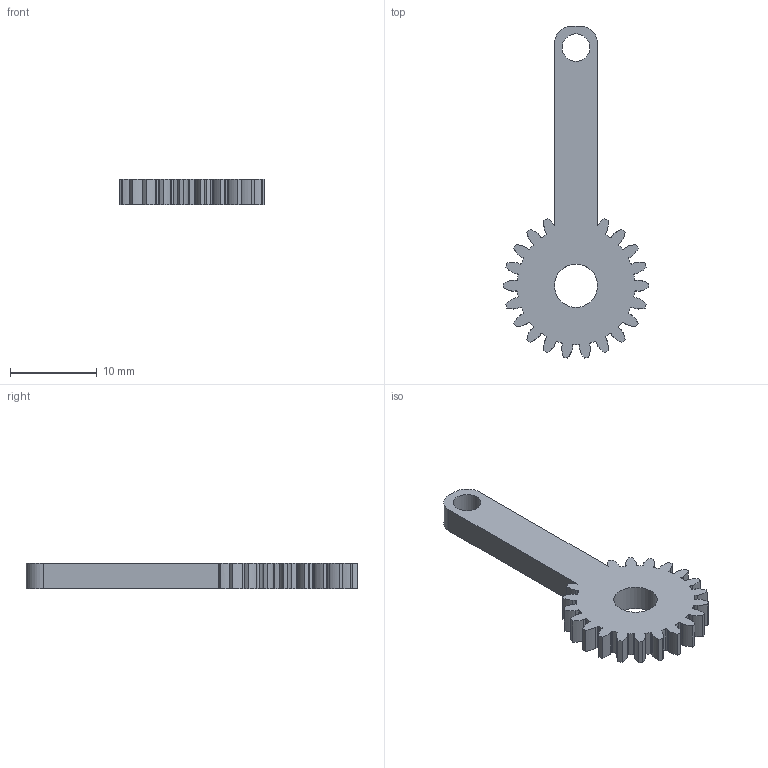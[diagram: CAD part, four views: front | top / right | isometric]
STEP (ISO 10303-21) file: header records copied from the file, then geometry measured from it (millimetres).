
FILE_DESCRIPTION(/* description */ (''),/* implementation_level */ '2;1');
FILE_NAME(/* name */ 'Servo Claw Gear_v10.tmp.step',/* time_stamp */ '2026-11-01T13:10:41+02:00',/* author */ (''),/* organization */ (''),/* preprocessor_version */ 'ST-DEVELOPER v20.2',/* originating_system */ 'Autodesk Translation Framework v15.15.0.0',/* authorisation */ '');
FILE_SCHEMA (('AUTOMOTIVE_DESIGN { 1 0 10303 214 3 1 1 }'));
Length unit declared in the file: millimetre
Products named in the file (2): Servo Claw Gear; Spur Gear (22 teeth)
Assembly tree (1 placements, depth 2):
  Servo Claw Gear
    Spur Gear (22 teeth)
Bounding box: 16.8 x 38.35 x 3 mm (x, y, z)
Volume: 797.8 mm3; surface area: 1024.7 mm2
Topology: 1 solids, 1 shells, 164 faces, 486 edges, 324 vertices
Faces by surface type: cylinder 81, plane 43, bspline 40
Full cylindrical faces by diameter (mm): 3.2 x1, 5 x1
Entity records: 17043 total; most frequent: CARTESIAN_POINT 12831, ORIENTED_EDGE 972, DIRECTION 820, EDGE_CURVE 486, VERTEX_POINT 324, AXIS2_PLACEMENT_3D 289, LINE 242, VECTOR 242
